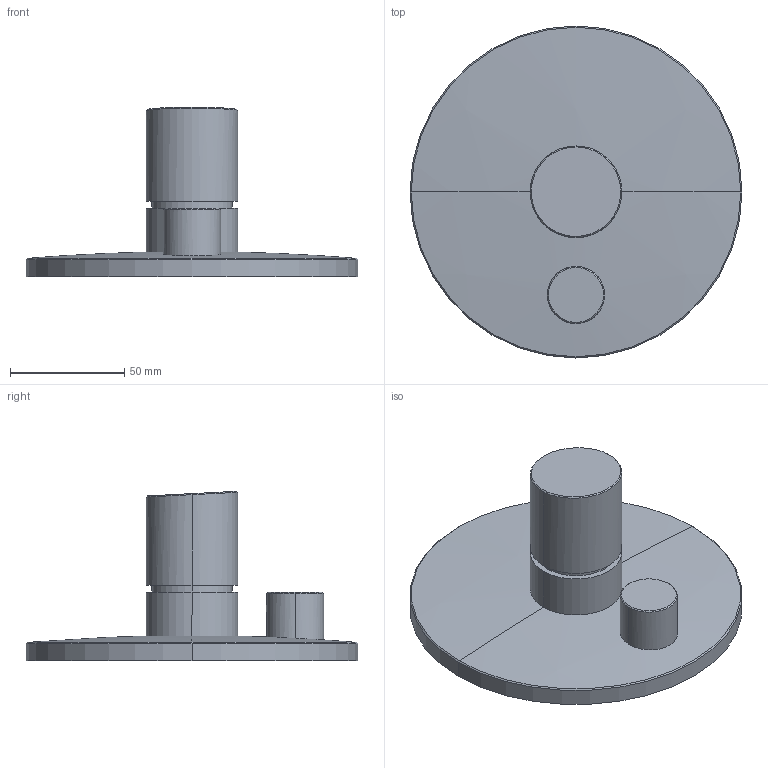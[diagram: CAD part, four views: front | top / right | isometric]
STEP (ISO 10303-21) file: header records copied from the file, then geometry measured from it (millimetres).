
FILE_DESCRIPTION (( 'STEP AP203' ), '1' );
FILE_NAME ('AZ 94.STEP', '2019-02-12T16:58:14', ( '' ), ( '' ), 'SwSTEP 2.0', 'SolidWorks 2019', '' );
FILE_SCHEMA (( 'CONFIG_CONTROL_DESIGN' ));
Length unit declared in the file: millimetre
Products named in the file (1): AZ 94
Bounding box: 145 x 145 x 74.02 mm (x, y, z)
Volume: 243888 mm3; surface area: 46467 mm2
Topology: 1 solids, 1 shells, 23 faces, 46 edges, 28 vertices
Faces by surface type: cylinder 10, plane 5, cone 4, bspline 2, sphere 2
Entity records: 1712 total; most frequent: CARTESIAN_POINT 1161, DIRECTION 102, ORIENTED_EDGE 92, EDGE_CURVE 46, AXIS2_PLACEMENT_3D 44, VERTEX_POINT 28, EDGE_LOOP 26, ADVANCED_FACE 23
